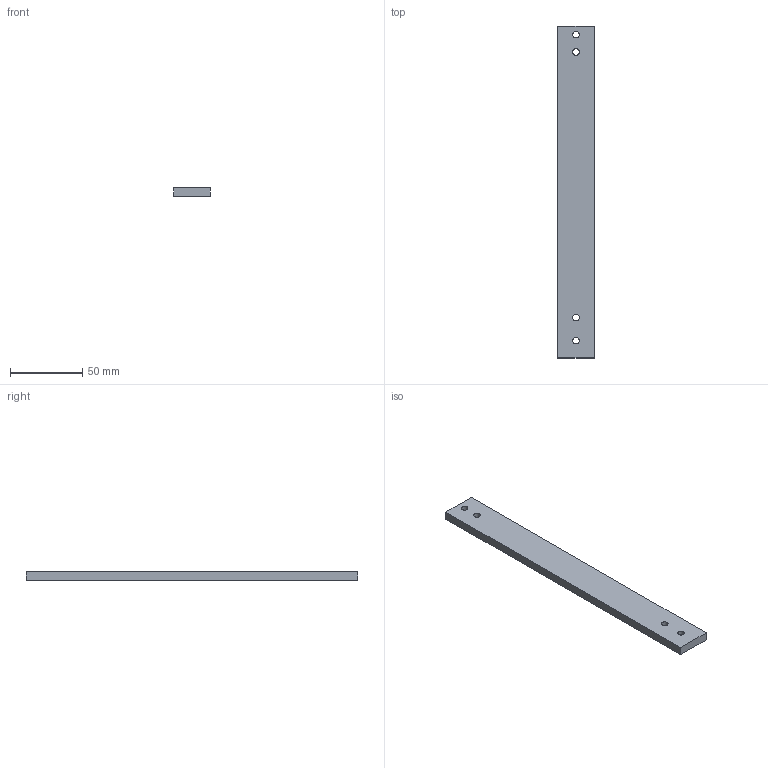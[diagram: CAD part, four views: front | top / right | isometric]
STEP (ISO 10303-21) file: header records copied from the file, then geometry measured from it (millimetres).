
FILE_DESCRIPTION(('Open CASCADE Model'),'2;1');
FILE_NAME('Open CASCADE Shape Model','2026-10-15T18:22:09',('Author'),( 'Open CASCADE'),'Open CASCADE STEP processor 7.9','Open CASCADE 7.9' ,'Unknown');
FILE_SCHEMA(('AUTOMOTIVE_DESIGN { 1 0 10303 214 1 1 1 1 }'));
Length unit declared in the file: millimetre
Products named in the file (1): Open CASCADE STEP translator 7.9 22
Bounding box: 25 x 230 x 6 mm (x, y, z)
Volume: 34118.3 mm3; surface area: 14772.1 mm2
Topology: 1 solids, 1 shells, 10 faces, 24 edges, 16 vertices
Faces by surface type: plane 6, cylinder 4
Full cylindrical faces by diameter (mm): 4.5 x4
Entity records: 634 total; most frequent: DIRECTION 102, CARTESIAN_POINT 99, LINE 56, VECTOR 56, ORIENTED_EDGE 48, PCURVE 48, DEFINITIONAL_REPRESENTATION 48, EDGE_CURVE 24
